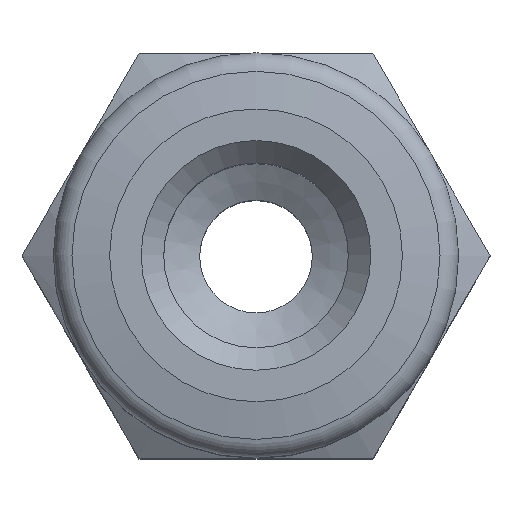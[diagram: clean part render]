
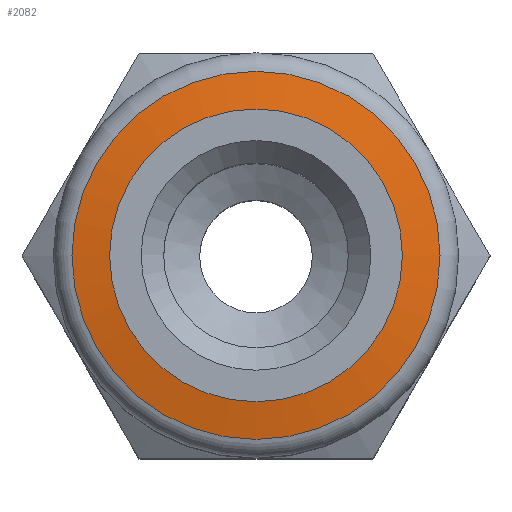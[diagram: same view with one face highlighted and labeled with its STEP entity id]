
A CAD part, top view. The second image highlights one B-rep face of the part: STEP entity #2082.
In plain terms, the highlighted conical face has half-angle 80 degrees and reference radius 4.087 mm.
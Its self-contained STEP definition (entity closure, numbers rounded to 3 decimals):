
#546=CONICAL_SURFACE('',#2018,4.087,80.);
#693=ORIENTED_EDGE('',*,*,#881,.T.);
#694=ORIENTED_EDGE('',*,*,#880,.F.);
#744=CIRCLE('',#2017,3.25);
#745=CIRCLE('',#2019,4.087);
#803=VERTEX_POINT('',#1881);
#804=VERTEX_POINT('',#1884);
#880=EDGE_CURVE('',#803,#803,#744,.T.);
#881=EDGE_CURVE('',#804,#804,#745,.T.);
#966=EDGE_LOOP('',(#693));
#967=EDGE_LOOP('',(#694));
#1056=FACE_BOUND('',#966,.T.);
#1057=FACE_BOUND('',#967,.T.);
#1678=DIRECTION('',(0.,1.,0.));
#1679=DIRECTION('',(3.25,0.,0.));
#1680=DIRECTION('',(0.,-1.,0.));
#1681=DIRECTION('',(1.,0.,0.));
#1682=DIRECTION('',(0.,1.,0.));
#1683=DIRECTION('',(4.087,0.,0.));
#1881=CARTESIAN_POINT('',(93.285,52.38,0.));
#1882=CARTESIAN_POINT('',(90.035,52.38,0.));
#1883=CARTESIAN_POINT('',(90.035,52.233,0.));
#1884=CARTESIAN_POINT('',(94.122,52.233,0.));
#1885=CARTESIAN_POINT('',(90.035,52.233,0.));
#2017=AXIS2_PLACEMENT_3D('',#1882,#1678,#1679);
#2018=AXIS2_PLACEMENT_3D('',#1883,#1680,#1681);
#2019=AXIS2_PLACEMENT_3D('',#1885,#1682,#1683);
#2082=ADVANCED_FACE('',(#1056,#1057),#546,.T.);
